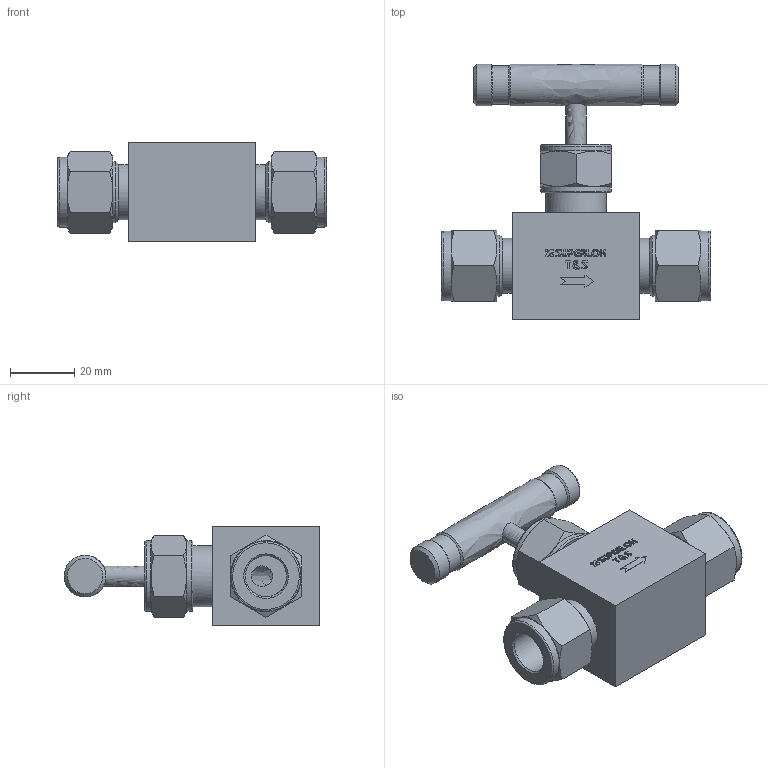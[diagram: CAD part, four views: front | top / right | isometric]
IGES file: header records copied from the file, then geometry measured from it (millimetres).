
Global section: file name: SBNV2-S8; native system: Autodesk Inventor 2016; preprocessor: unknown; author: HP; date: 20161008.112953; units: millimetre
Bounding box: 84.02 x 79.8 x 31.1 mm (x, y, z)
Volume: 67792.9 mm3; surface area: 18205.7 mm2
Topology: 1 solids, 1 shells, 244 faces, 668 edges, 465 vertices
Faces by surface type: bspline 244
